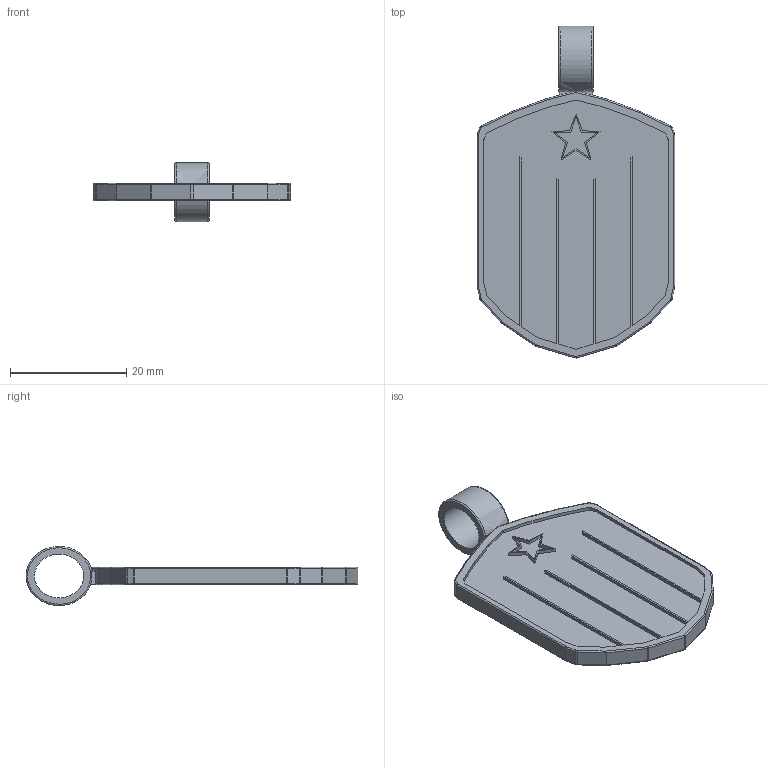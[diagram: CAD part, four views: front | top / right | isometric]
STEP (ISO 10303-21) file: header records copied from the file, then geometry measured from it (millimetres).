
FILE_DESCRIPTION(('Open CASCADE Model'),'2;1');
FILE_NAME('Open CASCADE Shape Model','2026-10-12T08:24:02',('Author'),( 'Open CASCADE'),'Open CASCADE STEP processor 7.8','Open CASCADE 7.8' ,'Unknown');
FILE_SCHEMA(('AUTOMOTIVE_DESIGN { 1 0 10303 214 1 1 1 1 }'));
Length unit declared in the file: millimetre
Products named in the file (1): Open CASCADE STEP translator 7.8 1
Bounding box: 34 x 57.17 x 10.2 mm (x, y, z)
Volume: 2983.5 mm3; surface area: 3768.3 mm2
Topology: 1 solids, 1 shells, 219 faces, 577 edges, 364 vertices
Faces by surface type: plane 107, cylinder 80, torus 28, extrusion 2, bspline 2
Entity records: 15231 total; most frequent: CARTESIAN_POINT 4165, DIRECTION 1932, ORIENTED_EDGE 1154, PCURVE 1154, DEFINITIONAL_REPRESENTATION 1154, VECTOR 1044, LINE 1042, EDGE_CURVE 577
